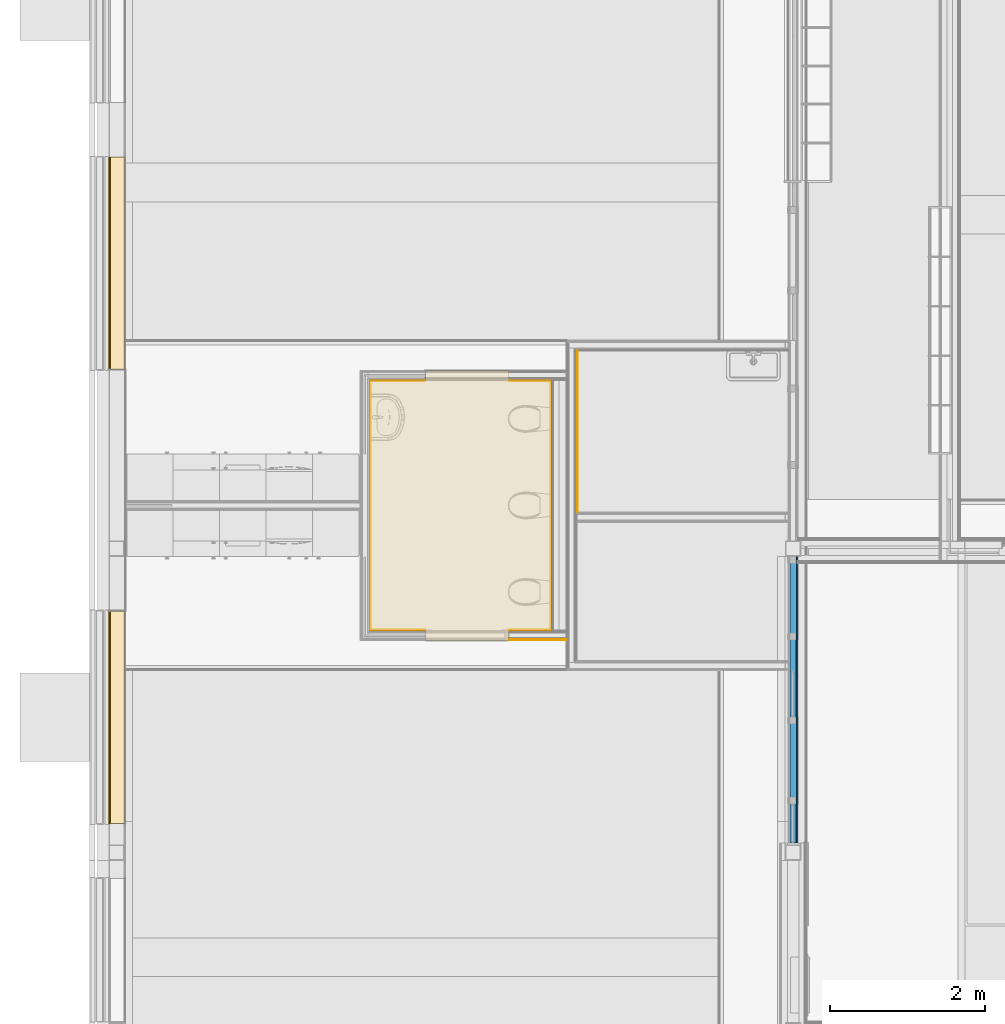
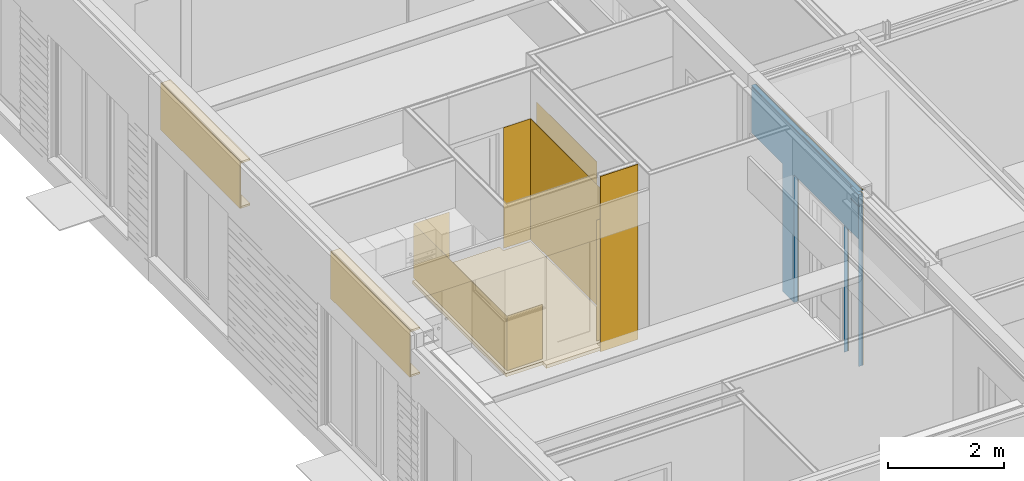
# One storey, part 114 of 165: 16 coverings, 2 building element parts, 4 openings, 12 elements without a shape of their own.
"""IFC2X3 building model written with IfcOpenShell, lengths in millimetres."""

from ifc_helpers import new_model, entity, si_unit, converted_unit, derived_unit, money_unit, direction, frame, origin_with_axes, place, context, subcontext, project, spatial, faceted_brep, material, type_object, element, aggregate, save


model = new_model("IFC2X3")

# Units and contexts
model_context = context("Model", 3, precision=0.01, world=origin_with_axes(), true_north=direction((0.0, 1.0)))
body_context = subcontext(model_context, "Body", "Model", "MODEL_VIEW")
ifc_project = project(units=[si_unit("LENGTHUNIT", "METRE", prefix="MILLI"), si_unit("AREAUNIT", "SQUARE_METRE"), si_unit("VOLUMEUNIT", "CUBIC_METRE"), converted_unit("PLANEANGLEUNIT", "DEGREE", entity("IfcPlaneAngleMeasure", 0.0174532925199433), si_unit("PLANEANGLEUNIT", "RADIAN"), dimensions=[0, 0, 0, 0, 0, 0, 0]), money_unit("EUR"), converted_unit("TIMEUNIT", "Year", entity("IfcTimeMeasure", 31556926.0), si_unit("TIMEUNIT", "SECOND"), dimensions=[0, 0, 1, 0, 0, 0, 0]), si_unit("MASSUNIT", "GRAM", prefix="KILO"), si_unit("THERMODYNAMICTEMPERATUREUNIT", "DEGREE_CELSIUS"), si_unit("LUMINOUSINTENSITYUNIT", "LUMEN"), si_unit("ENERGYUNIT", "JOULE", prefix="MEGA"), derived_unit("THERMALCONDUCTANCEUNIT", [(si_unit("POWERUNIT", "WATT"), 1), (si_unit("LENGTHUNIT", "METRE"), -1), (si_unit("THERMODYNAMICTEMPERATUREUNIT", "KELVIN"), -1)]), derived_unit("SPECIFICHEATCAPACITYUNIT", [(si_unit("ENERGYUNIT", "JOULE"), 1), (si_unit("MASSUNIT", "GRAM", prefix="KILO"), -1), (si_unit("THERMODYNAMICTEMPERATUREUNIT", "KELVIN"), -1)]), derived_unit("MASSDENSITYUNIT", [(si_unit("MASSUNIT", "GRAM", prefix="KILO"), 1), (si_unit("VOLUMEUNIT", "CUBIC_METRE"), -1)])], contexts=[model_context])

# Site, building, storey
site_placement = place(None, origin_with_axes())
site = spatial("IfcSite", under=ifc_project, at=site_placement, Name="Site", CompositionType="ELEMENT")
building_placement = place(site_placement, origin_with_axes())
building = spatial("IfcBuilding", under=site, at=building_placement, Name="Naam gebouw", CompositionType="ELEMENT")
storey_placement = place(building_placement, origin_with_axes())
storey = spatial("IfcBuildingStorey", under=building, at=storey_placement, Name="Begane grond", CompositionType="ELEMENT", Elevation=0.0)

# Proxy, openings, covering
building_element_proxy_type_1 = type_object("IfcBuildingElementProxyType", Name="22 Metal stud 125 oregon pine 125", PredefinedType="NOTDEFINED")
proxy_1_placement = place(storey_placement, frame((8850.000000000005, 10910.00011055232, -100.0), z_axis=(0.0, 0.0, 1.0), x_axis=(0.0, -1.0, 0.0)))
proxy_1 = element("IfcBuildingElementProxy", 1, at=proxy_1_placement, inside=storey, type_object=building_element_proxy_type_1, Name="_Wand-x")
opening_1_placement = place(proxy_1_placement, frame((3655.000013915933, 0.0, 100.0), z_axis=(0.0, 0.0, 1.0), x_axis=(1.0, 0.0, 0.0)))
element("IfcOpeningElement", 2, at=opening_1_placement, cuts=proxy_1, Name="_B.13", context=body_context, shape_type="Brep", body=[
    faceted_brep([(249.9879249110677, -12.49999999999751, 2600.0), (-249.9879249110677, -12.49999999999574, 2600.0), (-249.9879249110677, -63.49999999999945, 2600.0), (249.9879249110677, -63.50000000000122, 2600.0), (249.9879249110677, 63.50000000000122, 2600.0), (-249.9879249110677, 63.500000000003, 2600.0), (-249.9879249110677, -12.49999999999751, -100.0000000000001), (-249.9879249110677, -63.50000000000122, -100.0000000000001), (249.9879249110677, -63.50000000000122, -100.0000000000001), (249.9879249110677, -12.49999999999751, -100.0000000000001), (249.9879249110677, 63.50000000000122, -100.0000000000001), (-249.9879249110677, 63.50000000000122, -100.0000000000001)], [[[0, 1, 2, 3]], [[1, 0, 4, 5]], [[1, 6, 7, 2]], [[2, 7, 8, 3]], [[9, 0, 3, 8]], [[0, 9, 10, 4]], [[4, 10, 11, 5]], [[6, 1, 5, 11]], [[6, 9, 8, 7]], [[9, 6, 11, 10]]]),
])
opening_2_placement = place(proxy_1_placement, frame((2839.999917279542, 0.0, 100.0), z_axis=(0.0, 0.0, 1.0), x_axis=(1.0, 0.0, 0.0)))
element("IfcOpeningElement", 3, at=opening_2_placement, cuts=proxy_1, Name="_02.01", context=body_context, shape_type="Brep", body=[
    faceted_brep([(564.9999999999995, 63.50000000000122, 2600.0), (564.9999999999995, 63.50000000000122, -100.0000000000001), (-564.9999999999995, 63.50000000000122, -100.0000000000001), (-564.9999999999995, 63.50000000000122, 2600.0), (564.9999999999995, -63.49999999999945, 2600.0), (564.9999999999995, -63.49999999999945, -100.0000000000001), (-564.9999999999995, -63.49999999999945, -100.0000000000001), (-564.9999999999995, -63.49999999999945, 2600.0)], [[[0, 1, 2, 3]], [[4, 5, 1, 0]], [[5, 6, 2, 1]], [[6, 7, 3, 2]], [[7, 4, 0, 3]], [[6, 5, 4, 7]]]),
])
opening_3_placement = place(proxy_1_placement, frame((739.9999999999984, 0.0, 100.0), z_axis=(0.0, 0.0, 1.0), x_axis=(1.0, 0.0, 0.0)))
element("IfcOpeningElement", 4, at=opening_3_placement, cuts=proxy_1, Name="_01.02", context=body_context, shape_type="Brep", body=[
    faceted_brep([(-539.9999999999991, -63.50000000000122, 2600.0), (-539.9999999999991, -63.50000000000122, -100.0000000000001), (539.9999999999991, -63.49999999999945, -100.0000000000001), (539.9999999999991, -63.49999999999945, 2600.0), (-539.9999999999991, 63.49999999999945, 2600.0), (-539.9999999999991, 63.49999999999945, -100.0000000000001), (539.9999999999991, 63.50000000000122, -100.0000000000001), (539.9999999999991, 63.50000000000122, 2600.0)], [[[0, 1, 2, 3]], [[4, 5, 1, 0]], [[5, 6, 2, 1]], [[6, 7, 3, 2]], [[7, 4, 0, 3]], [[6, 5, 4, 7]]]),
])
opening_4_placement = place(proxy_1_placement, frame((1974.999917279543, 0.0, 100.0), z_axis=(0.0, 0.0, 1.0), x_axis=(1.0, 0.0, 0.0)))
element("IfcOpeningElement", 5, at=opening_4_placement, cuts=proxy_1, Name="_B.05", context=body_context, shape_type="Brep", body=[
    faceted_brep([(300.0000000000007, -12.49999999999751, 2600.0), (-300.0000000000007, -12.49999999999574, 2600.0), (-300.0000000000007, -63.49999999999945, 2600.0), (300.0000000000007, -63.50000000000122, 2600.0), (300.0000000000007, 63.50000000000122, 2600.0), (-300.0000000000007, 63.500000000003, 2600.0), (-300.0000000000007, -12.49999999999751, -100.0000000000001), (-300.0000000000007, -63.50000000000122, -100.0000000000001), (300.0000000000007, -63.50000000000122, -100.0000000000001), (300.0000000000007, -12.49999999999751, -100.0000000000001), (300.0000000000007, 63.50000000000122, -100.0000000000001), (-300.0000000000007, 63.50000000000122, -100.0000000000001)], [[[0, 1, 2, 3]], [[1, 0, 4, 5]], [[1, 6, 7, 2]], [[2, 7, 8, 3]], [[9, 0, 3, 8]], [[0, 9, 10, 4]], [[4, 10, 11, 5]], [[6, 1, 5, 11]], [[6, 9, 8, 7]], [[9, 6, 11, 10]]]),
])
ifc_material_1 = material(Name="Hout - Multiplex Oregon Pine")
covering_1_placement = place(proxy_1_placement, origin_with_axes())
covering_1 = element("IfcCovering", 6, at=covering_1_placement, material=ifc_material_1, Name="Hout - Multiplex Oregon Pine", PredefinedType="NOTDEFINED", context=body_context, shape_type="Brep", body=[
    faceted_brep([(1279.999999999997, 62.50000000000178, 0.0), (1279.999999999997, 62.50000000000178, 2700.0), (199.9999999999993, 62.5, 2700.0), (199.9999999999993, 62.5, 3670.000002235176), (3630.000110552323, 62.50000000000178, 3670.000002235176), (3630.000110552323, 62.50000000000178, 3630.000002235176), (3905.000110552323, 62.50000000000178, 3630.000002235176), (3905.000110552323, 62.50000000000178, 3405.000002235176), (3630.000110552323, 62.50000000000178, 3405.000002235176), (3630.000110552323, 62.50000000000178, 3380.000002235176), (3905.000110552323, 62.50000000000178, 3380.000002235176), (3905.000110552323, 62.50000000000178, 0.0), (3904.987938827, 62.50000000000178, 0.0), (3904.987938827, 62.50000000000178, 2700.0), (3405.012089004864, 62.50000000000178, 2700.0), (3405.012089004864, 62.50000000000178, 0.0), (3404.999917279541, 62.50000000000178, 0.0), (3404.999917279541, 62.50000000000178, 2700.0), (1674.999917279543, 62.50000000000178, 2700.0), (1674.999917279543, 62.50000000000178, 0.0), (1279.999999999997, 50.00000000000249, 0.0), (1279.999999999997, 50.00000000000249, 2700.0), (199.9999999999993, 50.00000000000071, 2700.0), (199.9999999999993, 50.00000000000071, 3670.000002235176), (3630.000110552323, 50.00000000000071, 3670.000002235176), (3630.000110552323, 50.00000000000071, 3630.000002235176), (3905.000110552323, 50.00000000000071, 3630.000002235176), (3905.000110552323, 50.00000000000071, 3405.000002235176), (3630.000110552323, 50.00000000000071, 3405.000002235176), (3630.000110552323, 50.00000000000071, 3380.000002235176), (3905.000110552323, 50.00000000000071, 3380.000002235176), (3905.000110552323, 50.00000000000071, 0.0), (3904.987938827, 50.00000000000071, 0.0), (3904.987938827, 50.00000000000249, 2700.0), (3405.012089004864, 50.00000000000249, 2700.0), (3405.012089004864, 50.00000000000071, 0.0), (3404.999917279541, 50.00000000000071, 0.0), (3404.999917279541, 50.00000000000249, 2700.0), (1674.999917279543, 50.00000000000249, 2700.0), (1674.999917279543, 50.00000000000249, 0.0)], [[[0, 1, 2, 3, 4, 5, 6, 7, 8, 9, 10, 11, 12, 13, 14, 15, 16, 17, 18, 19]], [[1, 0, 20, 21]], [[22, 2, 1, 21]], [[2, 22, 23, 3]], [[3, 23, 24, 4]], [[25, 5, 4, 24]], [[26, 6, 5, 25]], [[7, 6, 26, 27]], [[28, 8, 7, 27]], [[29, 9, 8, 28]], [[30, 10, 9, 29]], [[11, 10, 30, 31]], [[31, 32, 12, 11]], [[33, 13, 12, 32]], [[34, 14, 13, 33]], [[35, 15, 14, 34]], [[16, 15, 35, 36]], [[16, 36, 37, 17]], [[37, 38, 18, 17]], [[38, 39, 19, 18]], [[20, 0, 19, 39]], [[21, 20, 39, 38, 37, 36, 35, 34, 33, 32, 31, 30, 29, 28, 27, 26, 25, 24, 23, 22]]]),
    faceted_brep([(199.9999999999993, 62.5, 3695.000002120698), (199.9999999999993, 62.5, 3699.999999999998), (3905.000110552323, 62.50000000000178, 3700.0), (3905.000110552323, 62.50000000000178, 3695.0), (199.9999999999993, 50.00000000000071, 3699.999999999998), (199.9999999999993, 50.00000000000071, 3695.000002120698), (3905.000110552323, 50.00000000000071, 3700.0), (3905.000110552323, 50.00000000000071, 3695.0)], [[[0, 1, 2, 3]], [[4, 1, 0, 5]], [[1, 4, 6, 2]], [[6, 7, 3, 2]], [[5, 0, 3, 7]], [[4, 5, 7, 6]]]),
])

# Proxy, covering
building_element_proxy_type_2 = type_object("IfcBuildingElementProxyType", Name="42 Tegelwerk 2600+ 12 x 2600", PredefinedType="NOTDEFINED")
proxy_2_placement = place(storey_placement, frame((5704.983696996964, 12970.00030942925, 0.0), z_axis=(0.0, 0.0, 1.0), x_axis=(-1.582717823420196e-07, -0.9999999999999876, 0.0)))
proxy_2 = element("IfcBuildingElementProxy", 7, at=proxy_2_placement, inside=storey, type_object=building_element_proxy_type_2, Name="_Wand-x")
ifc_material_2 = material(Name="Tegels - Wand")
covering_2_placement = place(proxy_2_placement, origin_with_axes())
covering_2 = element("IfcCovering", 8, at=covering_2_placement, material=ifc_material_2, Name="Tegels - Wand", PredefinedType="NOTDEFINED", context=body_context, shape_type="Brep", body=[
    faceted_brep([(3213.00036806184, 8.000000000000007, 2600.0), (3213.000367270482, 12.9999999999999, 2600.0), (-8.000000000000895, 12.9999999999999, 2600.0), (-8.000000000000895, 8.000000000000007, 2600.0), (3213.000367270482, 12.9999999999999, 50.00000000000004), (3213.00036806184, 8.000000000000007, 50.00000000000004), (-7.999999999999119, 12.9999999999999, 50.00000000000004), (-7.999999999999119, 8.000000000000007, 50.00000000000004)], [[[0, 1, 2, 3]], [[4, 1, 0, 5]], [[1, 4, 6, 2]], [[3, 2, 6, 7]], [[5, 0, 3, 7]], [[4, 5, 7, 6]]]),
])
aggregate(proxy_2, [covering_2])

building_element_proxy_type_3 = type_object("IfcBuildingElementProxyType", Name="42 Tegelwerk 1200+ 12 x 1200", PredefinedType="NOTDEFINED")
proxy_3_placement = place(storey_placement, frame((4094.999594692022, 12970.0005642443, 0.0), z_axis=(0.0, 0.0, 1.0), x_axis=(-0.9999999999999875, 1.582717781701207e-07, 0.0)))
proxy_3 = element("IfcBuildingElementProxy", 9, at=proxy_3_placement, inside=storey, type_object=building_element_proxy_type_3, Name="_Wand-x")
covering_3_placement = place(proxy_3_placement, origin_with_axes())
covering_3 = element("IfcCovering", 10, at=covering_3_placement, material=ifc_material_2, Name="Tegels - Wand", PredefinedType="NOTDEFINED", context=body_context, shape_type="Brep", body=[
    faceted_brep([(713.0001144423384, -13.00000000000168, 50.00000000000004), (713.0001144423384, -12.9999999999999, 1200.0), (0.0, -12.9999999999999, 1200.0), (0.0, -12.9999999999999, 50.00000000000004), (713.0001364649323, -8.000000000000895, 1200.0), (713.0001364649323, -7.999999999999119, 50.00000000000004), (0.0, -7.999999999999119, 1200.0), (0.0, -7.999999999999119, 50.00000000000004)], [[[0, 1, 2, 3]], [[4, 1, 0, 5]], [[1, 4, 6, 2]], [[6, 7, 3, 2]], [[5, 0, 3, 7]], [[4, 5, 7, 6]]]),
])
aggregate(proxy_3, [covering_3])

proxy_4_placement = place(storey_placement, frame((5174.99959469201, 12970.00039331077, 0.0), z_axis=(0.0, 0.0, 1.0), x_axis=(0.9999999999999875, -1.58271783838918e-07, 0.0)))
proxy_4 = element("IfcBuildingElementProxy", 11, at=proxy_4_placement, inside=storey, type_object=building_element_proxy_type_2, Name="_Wand-x")
covering_4_placement = place(proxy_4_placement, origin_with_axes())
covering_4 = element("IfcCovering", 12, at=covering_4_placement, material=ifc_material_2, Name="Tegels - Wand", PredefinedType="NOTDEFINED", context=body_context, shape_type="Brep", body=[
    faceted_brep([(542.9841067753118, 8.000000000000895, 2600.0), (542.9841067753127, 12.9999999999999, 2600.0), (0.0, 12.9999999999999, 2600.0), (0.0, 8.000000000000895, 2600.0), (542.9841067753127, 12.9999999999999, 50.00000000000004), (542.9841067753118, 8.000000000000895, 50.00000000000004), (0.0, 12.9999999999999, 50.00000000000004), (0.0, 7.999999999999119, 50.00000000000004)], [[[0, 1, 2, 3]], [[4, 1, 0, 5]], [[1, 4, 6, 2]], [[2, 6, 7, 3]], [[5, 0, 3, 7]], [[4, 5, 7, 6]]]),
])
aggregate(proxy_4, [covering_4])

proxy_5_placement = place(storey_placement, frame((3394.984815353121, 9770.000153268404, 0.0), z_axis=(0.0, 0.0, 1.0), x_axis=(1.0, 0.0, 0.0)))
proxy_5 = element("IfcBuildingElementProxy", 13, at=proxy_5_placement, inside=storey, type_object=building_element_proxy_type_3, Name="_Wand-x")
covering_5_placement = place(proxy_5_placement, origin_with_axes())
covering_5 = element("IfcCovering", 14, at=covering_5_placement, material=ifc_material_2, Name="Tegels - Wand", PredefinedType="NOTDEFINED", context=body_context, shape_type="Brep", body=[
    faceted_brep([(-8.000036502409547, -7.999999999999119, 50.00000000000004), (-8.000036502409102, -7.999999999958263, 1200.0), (699.9983635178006, -7.999999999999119, 1200.0), (699.9983635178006, -7.999999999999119, 50.00000000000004), (-8.000059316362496, -12.99999999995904, 1200.0), (-8.00005931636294, -12.9999999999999, 50.00000000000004), (699.9983635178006, -12.9999999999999, 1200.0), (699.9983635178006, -12.9999999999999, 50.00000000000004)], [[[0, 1, 2, 3]], [[4, 1, 0, 5]], [[1, 4, 6, 2]], [[2, 6, 7, 3]], [[5, 0, 3, 7]], [[4, 5, 7, 6]]]),
])
aggregate(proxy_5, [covering_5])

proxy_6_placement = place(storey_placement, frame((3394.999416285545, 12970.00067503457, 0.0), z_axis=(0.0, 0.0, 1.0), x_axis=(-4.562790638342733e-06, -0.9999999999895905, 0.0)))
proxy_6 = element("IfcBuildingElementProxy", 15, at=proxy_6_placement, inside=storey, type_object=building_element_proxy_type_3, Name="_Wand-x")
covering_6_placement = place(proxy_6_placement, origin_with_axes())
covering_6 = element("IfcCovering", 16, at=covering_6_placement, material=ifc_material_2, Name="Tegels - Wand", PredefinedType="NOTDEFINED", context=body_context, shape_type="Brep", body=[
    faceted_brep([(3213.000574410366, -13.00000000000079, 1200.0), (3213.000551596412, -8.000000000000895, 1200.0), (-7.999964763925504, -8.000000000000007, 1200.0), (-7.999942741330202, -12.9999999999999, 1200.0), (3213.000551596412, -8.000000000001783, 50.00000000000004), (3213.000574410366, -13.00000000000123, 50.00000000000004), (-7.999964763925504, -8.000000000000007, 50.00000000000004), (-7.999942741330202, -12.9999999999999, 50.00000000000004)], [[[0, 1, 2, 3]], [[4, 1, 0, 5]], [[1, 4, 6, 2]], [[3, 2, 6, 7]], [[5, 0, 3, 7]], [[4, 5, 7, 6]]]),
])
aggregate(proxy_6, [covering_6])

proxy_7_placement = place(storey_placement, frame((5704.983190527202, 9769.999944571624, 0.0), z_axis=(0.0, 0.0, 1.0), x_axis=(-1.0, 0.0, 0.0)))
proxy_7 = element("IfcBuildingElementProxy", 17, at=proxy_7_placement, inside=storey, type_object=building_element_proxy_type_2, Name="_Wand-x")
covering_7_placement = place(proxy_7_placement, origin_with_axes())
covering_7 = element("IfcCovering", 18, at=covering_7_placement, material=ifc_material_2, Name="Tegels - Wand", PredefinedType="NOTDEFINED", context=body_context, shape_type="Brep", body=[
    faceted_brep([(-7.999997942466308, 12.9999999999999, 2600.0), (-7.999998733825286, 8.000000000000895, 2600.0), (530.000011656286, 8.000000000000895, 2600.0), (530.000011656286, 12.9999999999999, 2600.0), (-7.999998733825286, 7.999999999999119, 50.00000000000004), (-7.999997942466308, 12.9999999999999, 50.00000000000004), (530.000011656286, 7.999999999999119, 50.00000000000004), (530.000011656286, 12.9999999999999, 50.00000000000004)], [[[0, 1, 2, 3]], [[4, 1, 0, 5]], [[1, 4, 6, 2]], [[3, 2, 6, 7]], [[5, 0, 3, 7]], [[4, 5, 7, 6]]]),
])
aggregate(proxy_7, [covering_7])

proxy_8_placement = place(storey_placement, frame((5174.983167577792, 9624.99999245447, -100.0), z_axis=(0.0, 0.0, 1.0), x_axis=(0.999999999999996, -9.034499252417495e-08, 0.0)))
proxy_8 = element("IfcBuildingElementProxy", 19, at=proxy_8_placement, inside=storey, type_object=building_element_proxy_type_1, Name="_Wand-x")
covering_8_placement = place(proxy_8_placement, origin_with_axes())
covering_8 = element("IfcCovering", 20, at=covering_8_placement, material=ifc_material_1, Name="Hout - Multiplex Oregon Pine", PredefinedType="NOTDEFINED", context=body_context, shape_type="Brep", body=[
    faceted_brep([(749.9999988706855, 12.50006775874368, 0.0), (749.9999999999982, 6.775874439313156e-05, 0.0), (0.0, 0.0, 0.0), (-1.129312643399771e-06, 12.49999999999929, 0.0), (749.9999988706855, 12.50006775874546, 3700.0), (749.9999999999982, 6.775874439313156e-05, 3700.0), (0.0, 0.0, 3700.0), (-1.129312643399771e-06, 12.50000000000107, 3700.0)], [[[0, 1, 2, 3]], [[0, 4, 5, 1]], [[1, 5, 6, 2]], [[3, 2, 6, 7]], [[4, 0, 3, 7]], [[5, 4, 7, 6]]]),
])
aggregate(proxy_8, [covering_8])

# Slab, covering
slab_type = type_object("IfcSlabType", Name="43 Zwevende dekvloer 100", PredefinedType="NOTDEFINED")
slab_placement = place(storey_placement, frame((3362.48413533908, 9749.999942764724, 0.0), z_axis=(0.0, 0.0, 1.0), x_axis=(1.0, 0.0, 0.0)))
slab = element("IfcSlab", 21, at=slab_placement, inside=storey, type_object=slab_type, Name="_Vloer-x", PredefinedType="NOTDEFINED")
ifc_material_3 = material(Name="Cement - dekvloer")
covering_9_placement = place(slab_placement, origin_with_axes())
covering_9 = element("IfcCovering", 22, at=covering_9_placement, material=ifc_material_3, Name="Cement - dekvloer", PredefinedType="FLOORING", context=body_context, shape_type="Brep", body=[
    faceted_brep([(732.4990429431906, 2.252856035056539e-05, -70.0), (732.4990429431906, 2.252856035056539e-05, 0.0), (0.0, 0.0, 0.0), (0.0, 0.0, -70.0), (732.4990467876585, -124.9999494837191, -70.0), (732.4990467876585, -124.9999494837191, 0.0), (1812.499045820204, -124.9999162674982, 0.0), (1812.499041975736, 4.968975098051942e-05, 0.0), (2362.499654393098, 0.0, 0.0), (2362.499560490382, 3240.00071371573, 0.0), (1812.515462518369, 3240.000479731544, 0.0), (1812.515482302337, 3365.000450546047, 0.0), (732.5154823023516, 3365.000621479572, 0.0), (732.5154625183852, 3240.000659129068, 0.0), (0.01590435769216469, 3240.000223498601, 0.0), (0.01590435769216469, 3240.000223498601, -70.0), (732.5154625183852, 3240.000659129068, -70.0), (732.5154823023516, 3365.000621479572, -70.0), (1812.515482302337, 3365.000450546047, -70.0), (1812.515462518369, 3240.000479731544, -70.0), (2362.499560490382, 3240.00071371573, -70.0), (2362.499654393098, 0.0, -70.0), (1812.499041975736, 4.968975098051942e-05, -70.0), (1812.499045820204, -124.9999162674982, -70.0)], [[[0, 1, 2, 3]], [[4, 5, 1, 0]], [[2, 1, 5, 6, 7, 8, 9, 10, 11, 12, 13, 14]], [[3, 2, 14, 15]], [[3, 15, 16, 17, 18, 19, 20, 21, 22, 23, 4, 0]], [[23, 6, 5, 4]], [[22, 7, 6, 23]], [[21, 8, 7, 22]], [[20, 9, 8, 21]], [[19, 10, 9, 20]], [[18, 11, 10, 19]], [[17, 12, 11, 18]], [[16, 13, 12, 17]], [[15, 14, 13, 16]]]),
])
aggregate(slab, [covering_9])

# Beam, coverings
beam_type = type_object("IfcBeamType", Name="31 HSB boven kozijnen 214 x 1000", PredefinedType="BEAM")
beam_1_placement = place(storey_placement, frame((213.9999999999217, 15874.9998112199, 2600.000000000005), z_axis=(0.0, 0.0, 1.0), x_axis=(-1.0, 0.0, 0.0)))
beam_1 = element("IfcBeam", 23, at=beam_1_placement, inside=storey, type_object=beam_type, Name="28_Balk-x", ObjectType="BEAM")
ifc_material_4 = material(Name="Hout - Vloer")
covering_10_placement = place(beam_1_placement, origin_with_axes())
covering_10 = element("IfcCovering", 24, at=covering_10_placement, material=ifc_material_4, Name="Hout - Vloer", PredefinedType="NOTDEFINED", context=body_context, shape_type="Brep", body=[
    faceted_brep([(11.99999638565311, 2749.999999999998, 49.99999999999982), (11.99999638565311, 2749.999999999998, 12.00000596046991), (11.99999638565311, 0.0, 12.00000596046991), (11.99999638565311, 0.0, 49.99999999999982), (196.0000083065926, 2749.999999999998, 49.99999999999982), (196.0000083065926, 2749.999999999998, 12.00000596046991), (196.0000083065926, 0.0, 12.00000596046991), (196.0000083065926, 0.0, 49.99999999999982)], [[[0, 1, 2, 3]], [[0, 4, 5, 1]], [[1, 5, 6, 2]], [[3, 2, 6, 7]], [[4, 0, 3, 7]], [[5, 4, 7, 6]]]),
])
covering_11_placement = place(beam_1_placement, origin_with_axes())
covering_11 = element("IfcCovering", 25, at=covering_11_placement, material=ifc_material_4, Name="Hout - Vloer", PredefinedType="NOTDEFINED", context=body_context, shape_type="Brep", body=[
    faceted_brep([(11.99999006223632, 2749.999999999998, 999.9999999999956), (11.99999006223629, 2749.999999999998, 962.0000059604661), (11.99999006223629, 0.0, 962.0000059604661), (11.99999006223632, 0.0, 999.9999999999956), (196.0000019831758, 2749.999999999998, 999.9999999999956), (196.0000019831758, 2749.999999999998, 961.9999910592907), (196.0000019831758, 0.0, 961.9999910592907), (196.0000019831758, 0.0, 999.9999999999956)], [[[0, 1, 2, 3]], [[0, 4, 5, 1]], [[1, 5, 6, 2]], [[3, 2, 6, 7]], [[4, 0, 3, 7]], [[5, 4, 7, 6]]]),
])
ifc_material_5 = material(Name="Hout - Multiplex")
covering_12_placement = place(beam_1_placement, origin_with_axes())
covering_12 = element("IfcCovering", 26, at=covering_12_placement, material=ifc_material_5, Name="Hout - Multiplex", PredefinedType="NOTDEFINED", context=body_context, shape_type="Brep", body=[
    faceted_brep([(196.0000019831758, 2749.999999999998, 999.9999999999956), (196.0000019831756, 2749.999999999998, 11.99999999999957), (196.0000019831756, 0.0, 11.99999999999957), (196.0000019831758, 0.0, 999.9999999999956), (214.0000025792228, 2750.0, 999.9999999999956), (214.0000025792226, 2750.0, 11.99999999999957), (214.0000025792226, 0.0, 11.99999999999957), (214.0000025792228, 0.0, 999.9999999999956)], [[[0, 1, 2, 3]], [[0, 4, 5, 1]], [[1, 5, 6, 2]], [[3, 2, 6, 7]], [[4, 0, 3, 7]], [[5, 4, 7, 6]]]),
])
aggregate(beam_1, [covering_10, covering_11, covering_12])

beam_2_placement = place(storey_placement, frame((214.0000000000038, 10005.0, 2600.000000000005), z_axis=(0.0, 0.0, 1.0), x_axis=(-1.0, 0.0, 0.0)))
beam_2 = element("IfcBeam", 27, at=beam_2_placement, inside=storey, type_object=beam_type, Name="28_Balk-x", ObjectType="BEAM")
covering_13_placement = place(beam_2_placement, origin_with_axes())
covering_13 = element("IfcCovering", 28, at=covering_13_placement, material=ifc_material_4, Name="Hout - Vloer", PredefinedType="NOTDEFINED", context=body_context, shape_type="Brep", body=[
    faceted_brep([(11.99999638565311, 2750.0, 49.99999999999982), (11.99999638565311, 2750.0, 12.00000596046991), (11.99999638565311, 0.0, 12.00000596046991), (11.99999638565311, 0.0, 49.99999999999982), (196.0000083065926, 2750.0, 49.99999999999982), (196.0000083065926, 2750.0, 12.00000596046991), (196.0000083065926, 0.0, 12.00000596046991), (196.0000083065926, 0.0, 49.99999999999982)], [[[0, 1, 2, 3]], [[0, 4, 5, 1]], [[1, 5, 6, 2]], [[3, 2, 6, 7]], [[4, 0, 3, 7]], [[5, 4, 7, 6]]]),
])
covering_14_placement = place(beam_2_placement, origin_with_axes())
covering_14 = element("IfcCovering", 29, at=covering_14_placement, material=ifc_material_4, Name="Hout - Vloer", PredefinedType="NOTDEFINED", context=body_context, shape_type="Brep", body=[
    faceted_brep([(11.99999006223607, 2750.0, 999.9999999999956), (11.99999006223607, 2750.0, 962.0000059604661), (11.99999006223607, 0.0, 962.0000059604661), (11.99999006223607, 0.0, 999.9999999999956), (196.0000019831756, 2750.0, 999.9999999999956), (196.0000019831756, 2750.0, 961.9999910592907), (196.0000019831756, 0.0, 961.9999910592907), (196.0000019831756, 0.0, 999.9999999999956)], [[[0, 1, 2, 3]], [[0, 4, 5, 1]], [[1, 5, 6, 2]], [[3, 2, 6, 7]], [[4, 0, 3, 7]], [[5, 4, 7, 6]]]),
])
covering_15_placement = place(beam_2_placement, origin_with_axes())
covering_15 = element("IfcCovering", 30, at=covering_15_placement, material=ifc_material_5, Name="Hout - Multiplex", PredefinedType="NOTDEFINED", context=body_context, shape_type="Brep", body=[
    faceted_brep([(196.0000019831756, 2750.0, 999.9999999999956), (196.0000019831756, 2750.0, 11.99999999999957), (196.0000019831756, 0.0, 11.99999999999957), (196.0000019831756, 0.0, 999.9999999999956), (214.0000025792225, 2750.0, 999.9999999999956), (214.0000025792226, 2750.0, 11.99999999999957), (214.0000025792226, 0.0, 11.99999999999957), (214.0000025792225, 0.0, 999.9999999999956)], [[[0, 1, 2, 3]], [[0, 4, 5, 1]], [[1, 5, 6, 2]], [[3, 2, 6, 7]], [[4, 0, 3, 7]], [[5, 4, 7, 6]]]),
])
aggregate(beam_2, [covering_13, covering_14, covering_15])

# Proxy, covering
proxy_9_placement = place(storey_placement, frame((6069.999595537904, 13360.0002666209, 0.0), z_axis=(0.0, 0.0, 1.0), x_axis=(0.0, -1.0, 0.0)))
proxy_9 = element("IfcBuildingElementProxy", 31, at=proxy_9_placement, inside=storey, type_object=building_element_proxy_type_2, Name="_Wand-x")
covering_16_placement = place(proxy_9_placement, origin_with_axes())
covering_16 = element("IfcCovering", 32, at=covering_16_placement, material=ifc_material_2, Name="Tegels - Wand", PredefinedType="NOTDEFINED", context=body_context, shape_type="Brep", body=[
    faceted_brep([(-7.999775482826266, -8.000000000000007, 50.00000000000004), (-7.999775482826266, -8.000000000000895, 2600.0), (2080.000176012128, -8.000000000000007, 2600.0), (2080.000176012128, -8.000000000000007, 50.00000000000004), (-7.999775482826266, -12.9999999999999, 2600.0), (-7.999775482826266, -12.9999999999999, 50.00000000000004), (2080.000176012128, -12.9999999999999, 2600.0), (2080.000176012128, -12.9999999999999, 50.00000000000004)], [[[0, 1, 2, 3]], [[4, 1, 0, 5]], [[1, 4, 6, 2]], [[2, 6, 7, 3]], [[5, 0, 3, 7]], [[4, 5, 7, 6]]]),
])
aggregate(proxy_9, [covering_16])

# Building element part
ifc_material_6 = material(Name="Gipsplaat")
building_element_part_1_placement = place(proxy_1_placement, origin_with_axes())
building_element_part_1 = element("IfcBuildingElementPart", 33, at=building_element_part_1_placement, material=ifc_material_6, Name="Gipsplaat", context=body_context, shape_type="Brep", body=[
    faceted_brep([(1279.999999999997, 50.00000000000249, 0.0), (1279.999999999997, 50.00000000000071, 2700.0), (199.9999999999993, 50.00000000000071, 2700.0), (199.9999999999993, 50.00000000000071, 3670.000002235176), (3630.000110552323, 50.00000000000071, 3670.000002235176), (3630.000110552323, 50.00000000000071, 3630.000002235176), (3905.000110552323, 50.00000000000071, 3630.000002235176), (3905.000110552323, 50.00000000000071, 3405.000002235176), (3630.000110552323, 50.00000000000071, 3405.000002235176), (3630.000110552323, 50.00000000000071, 3380.000002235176), (3905.000110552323, 50.00000000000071, 3380.000002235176), (3905.000110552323, 50.00000000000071, 0.0), (3904.987938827, 50.00000000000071, 0.0), (3904.987938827, 50.00000000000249, 2700.0), (3405.012089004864, 50.00000000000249, 2700.0), (3405.012089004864, 50.00000000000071, 0.0), (3404.999917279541, 50.00000000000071, 0.0), (3404.999917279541, 50.00000000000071, 2700.0), (1674.999917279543, 50.00000000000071, 2700.0), (1674.999917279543, 50.00000000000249, 0.0), (1279.999999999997, 37.50000000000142, 0.0), (1279.999999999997, 37.50000000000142, 2700.0), (199.9999999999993, 37.49999999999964, 2700.0), (199.9999999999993, 37.49999999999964, 3670.000002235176), (3630.000110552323, 37.50000000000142, 3670.000002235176), (3630.000110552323, 37.50000000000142, 3630.000002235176), (3905.000110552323, 37.50000000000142, 3630.000002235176), (3905.000110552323, 37.50000000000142, 3405.000002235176), (3630.000110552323, 37.50000000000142, 3405.000002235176), (3630.000110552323, 37.50000000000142, 3380.000002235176), (3905.000110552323, 37.50000000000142, 3380.000002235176), (3905.000110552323, 37.50000000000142, 0.0), (3904.987938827, 37.50000000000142, 0.0), (3904.987938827, 37.50000000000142, 2700.0), (3405.012089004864, 37.50000000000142, 2700.0), (3405.012089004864, 37.50000000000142, 0.0), (3404.999917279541, 37.50000000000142, 0.0), (3404.999917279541, 37.50000000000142, 2700.0), (1674.999917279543, 37.50000000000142, 2700.0), (1674.999917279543, 37.50000000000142, 0.0)], [[[0, 1, 2, 3, 4, 5, 6, 7, 8, 9, 10, 11, 12, 13, 14, 15, 16, 17, 18, 19]], [[1, 0, 20, 21]], [[22, 2, 1, 21]], [[2, 22, 23, 3]], [[3, 23, 24, 4]], [[25, 5, 4, 24]], [[26, 6, 5, 25]], [[7, 6, 26, 27]], [[28, 8, 7, 27]], [[29, 9, 8, 28]], [[30, 10, 9, 29]], [[11, 10, 30, 31]], [[31, 32, 12, 11]], [[33, 13, 12, 32]], [[34, 14, 13, 33]], [[35, 15, 14, 34]], [[16, 15, 35, 36]], [[16, 36, 37, 17]], [[37, 38, 18, 17]], [[38, 39, 19, 18]], [[20, 0, 19, 39]], [[21, 20, 39, 38, 37, 36, 35, 34, 33, 32, 31, 30, 29, 28, 27, 26, 25, 24, 23, 22]]]),
    faceted_brep([(199.9999999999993, 50.00000000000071, 3695.000002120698), (199.9999999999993, 50.00000000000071, 3699.999999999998), (3905.000110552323, 50.00000000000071, 3700.0), (3905.000110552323, 50.00000000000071, 3695.0), (199.9999999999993, 37.49999999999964, 3699.999999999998), (199.9999999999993, 37.49999999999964, 3695.000002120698), (3905.000110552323, 37.50000000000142, 3700.0), (3905.000110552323, 37.50000000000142, 3695.0)], [[[0, 1, 2, 3]], [[4, 1, 0, 5]], [[1, 4, 6, 2]], [[6, 7, 3, 2]], [[5, 0, 3, 7]], [[4, 5, 7, 6]]]),
])

ifc_material_7 = material(Name="ALG - LICHTE SCHEIDINGSWAND")
building_element_part_2_placement = place(proxy_1_placement, origin_with_axes())
building_element_part_2 = element("IfcBuildingElementPart", 34, at=building_element_part_2_placement, material=ifc_material_7, Name="ALG - LICHTE SCHEIDINGSWAND", context=body_context, shape_type="Brep", body=[
    faceted_brep([(1279.999999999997, 37.50000000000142, 0.0), (1279.999999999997, 37.50000000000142, 2700.0), (199.9999999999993, 37.49999999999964, 2700.0), (199.9999999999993, 37.49999999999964, 3670.000002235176), (3630.000110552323, 37.50000000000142, 3670.000002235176), (3630.000110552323, 37.50000000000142, 3630.000002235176), (3905.000110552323, 37.50000000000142, 3630.000002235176), (3905.000110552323, 37.50000000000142, 3405.000002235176), (3630.000110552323, 37.50000000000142, 3405.000002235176), (3630.000110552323, 37.50000000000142, 3380.000002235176), (3905.000110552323, 37.50000000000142, 3380.000002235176), (3905.000110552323, 37.50000000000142, 0.0), (3904.987938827, 37.50000000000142, 0.0), (3904.987938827, 37.50000000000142, 2700.0), (3405.012089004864, 37.50000000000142, 2700.0), (3405.012089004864, 37.50000000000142, 0.0), (3404.999917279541, 37.50000000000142, 0.0), (3404.999917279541, 37.50000000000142, 2700.0), (1674.999917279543, 37.50000000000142, 2700.0), (1674.999917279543, 37.50000000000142, 0.0), (1279.999999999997, -37.49999999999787, 0.0), (1279.999999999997, -37.49999999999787, 2700.0), (199.9999999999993, -37.49999999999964, 2700.0), (199.9999999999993, -37.49999999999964, 3670.000002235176), (3630.000110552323, -37.49999999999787, 3670.000002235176), (3630.000110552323, -37.49999999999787, 3630.000002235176), (3905.000110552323, -37.49999999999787, 3630.000002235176), (3905.000110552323, -37.49999999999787, 3405.000002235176), (3630.000110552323, -37.49999999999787, 3405.000002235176), (3630.000110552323, -37.49999999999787, 3380.000002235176), (3905.000110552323, -37.49999999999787, 3380.000002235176), (3905.000110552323, -37.49999999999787, 0.0), (3904.987938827, -37.49999999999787, 0.0), (3904.987938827, -12.49999999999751, 0.0), (3904.987938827, -12.49999999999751, 2700.0), (3405.012089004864, -12.49999999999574, 2700.0), (3405.012089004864, -12.49999999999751, 0.0), (3405.012089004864, -37.49999999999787, 0.0), (3404.999917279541, -37.49999999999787, 0.0), (3404.999917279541, -37.49999999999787, 2700.0), (2274.999917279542, -12.49999999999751, 2700.0), (1674.999917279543, -12.49999999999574, 2700.0), (2274.999917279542, -37.49999999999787, 2700.0), (1674.999917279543, -12.49999999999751, 0.0), (1674.999917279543, -37.49999999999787, 0.0), (1674.999917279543, -37.49999999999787, 2700.0), (3405.012089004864, -37.49999999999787, 2700.0), (3904.987938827, -37.49999999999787, 2700.0)], [[[0, 1, 2, 3, 4, 5, 6, 7, 8, 9, 10, 11, 12, 13, 14, 15, 16, 17, 18, 19]], [[1, 0, 20, 21]], [[22, 2, 1, 21]], [[2, 22, 23, 3]], [[24, 4, 3, 23]], [[4, 24, 25, 5]], [[5, 25, 26, 6]], [[26, 27, 7, 6]], [[7, 27, 28, 8]], [[8, 28, 29, 9]], [[9, 29, 30, 10]], [[30, 31, 11, 10]], [[31, 32, 33, 12, 11]], [[13, 12, 33, 34]], [[14, 13, 34, 35]], [[15, 14, 35, 36]], [[15, 36, 37, 38, 16]], [[16, 38, 39, 17]], [[40, 41, 18, 17, 39, 42]], [[41, 43, 19, 18]], [[20, 0, 19, 43, 44]], [[21, 20, 44, 45, 42, 39, 38, 37, 46, 47, 32, 31, 30, 29, 28, 27, 26, 25, 24, 23, 22]], [[34, 33, 32, 47]], [[35, 34, 47, 46]], [[36, 35, 46, 37]], [[42, 45, 41, 40]], [[45, 44, 43, 41]]]),
    faceted_brep([(199.9999999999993, 37.49999999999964, 3695.000002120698), (199.9999999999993, 37.49999999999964, 3699.999999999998), (3905.000110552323, 37.50000000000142, 3700.0), (3905.000110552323, 37.50000000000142, 3695.0), (199.9999999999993, -37.49999999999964, 3699.999999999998), (199.9999999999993, -37.49999999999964, 3695.000002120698), (3905.000110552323, -37.49999999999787, 3700.0), (3905.000110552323, -37.49999999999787, 3695.0)], [[[0, 1, 2, 3]], [[4, 1, 0, 5]], [[1, 4, 6, 2]], [[6, 7, 3, 2]], [[5, 0, 3, 7]], [[4, 5, 7, 6]]]),
])

aggregate(proxy_1, [covering_1, building_element_part_1, building_element_part_2])

save(model, "model.ifc")
